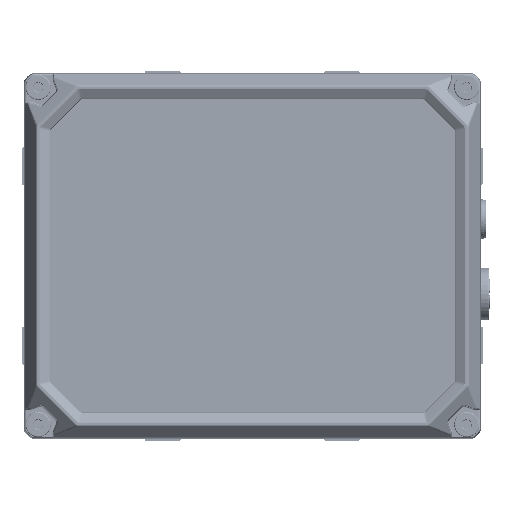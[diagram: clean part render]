
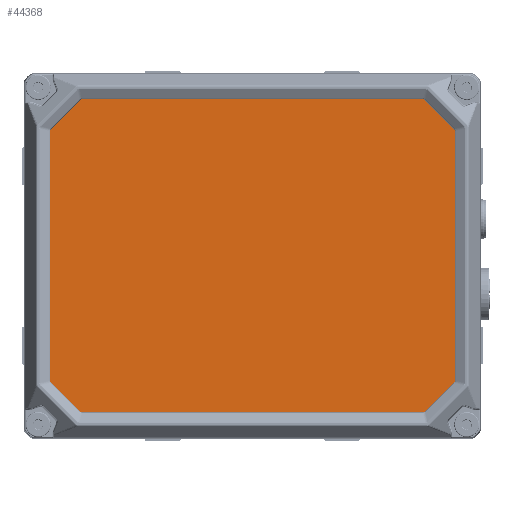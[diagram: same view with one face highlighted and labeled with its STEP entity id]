
A CAD part, top view. The second image highlights one B-rep face of the part: STEP entity #44368.
In plain terms, the highlighted planar face has unit normal (0, 0, 1).
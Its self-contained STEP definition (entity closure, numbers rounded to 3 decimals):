
#44368=ADVANCED_FACE('',(#53660),#47039,.F.);
#47039=PLANE('',#150054);
#53660=FACE_OUTER_BOUND('',#61275,.T.);
#61275=EDGE_LOOP('',(#95484,#95485,#95486,#95487,#95488,#95489,#95490,#95491,
#95492,#95493,#95494,#95495,#95496,#95497,#95498,#95499));
#64157=ELLIPSE('',#150046,1.001,1.);
#64158=ELLIPSE('',#150047,1.001,1.);
#64159=ELLIPSE('',#150048,1.001,1.);
#64160=ELLIPSE('',#150049,1.001,1.);
#64161=ELLIPSE('',#150050,1.001,1.);
#64162=ELLIPSE('',#150051,1.001,1.);
#64163=ELLIPSE('',#150052,1.001,1.);
#64164=ELLIPSE('',#150053,1.001,1.);
#95484=ORIENTED_EDGE('',*,*,#124792,.T.);
#95485=ORIENTED_EDGE('',*,*,#124793,.T.);
#95486=ORIENTED_EDGE('',*,*,#124794,.T.);
#95487=ORIENTED_EDGE('',*,*,#124795,.T.);
#95488=ORIENTED_EDGE('',*,*,#124796,.T.);
#95489=ORIENTED_EDGE('',*,*,#124797,.T.);
#95490=ORIENTED_EDGE('',*,*,#124798,.T.);
#95491=ORIENTED_EDGE('',*,*,#124799,.T.);
#95492=ORIENTED_EDGE('',*,*,#124800,.T.);
#95493=ORIENTED_EDGE('',*,*,#124801,.T.);
#95494=ORIENTED_EDGE('',*,*,#124802,.T.);
#95495=ORIENTED_EDGE('',*,*,#124803,.T.);
#95496=ORIENTED_EDGE('',*,*,#124804,.T.);
#95497=ORIENTED_EDGE('',*,*,#124805,.T.);
#95498=ORIENTED_EDGE('',*,*,#124806,.T.);
#95499=ORIENTED_EDGE('',*,*,#124807,.T.);
#108169=VERTEX_POINT('',#278731);
#108170=VERTEX_POINT('',#278732);
#108171=VERTEX_POINT('',#278734);
#108172=VERTEX_POINT('',#278736);
#108173=VERTEX_POINT('',#278738);
#108174=VERTEX_POINT('',#278740);
#108175=VERTEX_POINT('',#278742);
#108176=VERTEX_POINT('',#278744);
#108177=VERTEX_POINT('',#278746);
#108178=VERTEX_POINT('',#278748);
#108179=VERTEX_POINT('',#278750);
#108180=VERTEX_POINT('',#278752);
#108181=VERTEX_POINT('',#278754);
#108182=VERTEX_POINT('',#278756);
#108183=VERTEX_POINT('',#278758);
#108184=VERTEX_POINT('',#278760);
#124792=EDGE_CURVE('',#108169,#108170,#132539,.T.);
#124793=EDGE_CURVE('',#108170,#108171,#64157,.T.);
#124794=EDGE_CURVE('',#108171,#108172,#132540,.T.);
#124795=EDGE_CURVE('',#108172,#108173,#64158,.T.);
#124796=EDGE_CURVE('',#108173,#108174,#132541,.T.);
#124797=EDGE_CURVE('',#108174,#108175,#64159,.T.);
#124798=EDGE_CURVE('',#108175,#108176,#132542,.T.);
#124799=EDGE_CURVE('',#108176,#108177,#64160,.T.);
#124800=EDGE_CURVE('',#108177,#108178,#132543,.T.);
#124801=EDGE_CURVE('',#108178,#108179,#64161,.T.);
#124802=EDGE_CURVE('',#108179,#108180,#132544,.T.);
#124803=EDGE_CURVE('',#108180,#108181,#64162,.T.);
#124804=EDGE_CURVE('',#108181,#108182,#132545,.T.);
#124805=EDGE_CURVE('',#108182,#108183,#64163,.T.);
#124806=EDGE_CURVE('',#108183,#108184,#132546,.T.);
#124807=EDGE_CURVE('',#108184,#108169,#64164,.T.);
#132539=LINE('',#278730,#139231);
#132540=LINE('',#278735,#139232);
#132541=LINE('',#278739,#139233);
#132542=LINE('',#278743,#139234);
#132543=LINE('',#278747,#139235);
#132544=LINE('',#278751,#139236);
#132545=LINE('',#278755,#139237);
#132546=LINE('',#278759,#139238);
#139231=VECTOR('',#178168,1.);
#139232=VECTOR('',#178171,1.);
#139233=VECTOR('',#178174,1.);
#139234=VECTOR('',#178177,1.);
#139235=VECTOR('',#178180,1.);
#139236=VECTOR('',#178183,1.);
#139237=VECTOR('',#178186,1.);
#139238=VECTOR('',#178189,1.);
#150046=AXIS2_PLACEMENT_3D('',#278733,#178169,#178170);
#150047=AXIS2_PLACEMENT_3D('',#278737,#178172,#178173);
#150048=AXIS2_PLACEMENT_3D('',#278741,#178175,#178176);
#150049=AXIS2_PLACEMENT_3D('',#278745,#178178,#178179);
#150050=AXIS2_PLACEMENT_3D('',#278749,#178181,#178182);
#150051=AXIS2_PLACEMENT_3D('',#278753,#178184,#178185);
#150052=AXIS2_PLACEMENT_3D('',#278757,#178187,#178188);
#150053=AXIS2_PLACEMENT_3D('',#278761,#178190,#178191);
#150054=AXIS2_PLACEMENT_3D('',#278762,#178192,#178193);
#178168=DIRECTION('',(-0.707,0.707,0.));
#178169=DIRECTION('',(0.,0.,1.));
#178170=DIRECTION('',(0.383,0.924,0.));
#178171=DIRECTION('',(-1.,0.,0.));
#178172=DIRECTION('',(0.,0.,1.));
#178173=DIRECTION('',(-0.383,0.924,0.));
#178174=DIRECTION('',(-0.707,-0.707,0.));
#178175=DIRECTION('',(0.,0.,1.));
#178176=DIRECTION('',(-0.924,0.383,0.));
#178177=DIRECTION('',(0.,-1.,0.));
#178178=DIRECTION('',(0.,0.,1.));
#178179=DIRECTION('',(-0.924,-0.383,0.));
#178180=DIRECTION('',(0.707,-0.707,0.));
#178181=DIRECTION('',(0.,0.,1.));
#178182=DIRECTION('',(-0.383,-0.924,0.));
#178183=DIRECTION('',(1.,0.,0.));
#178184=DIRECTION('',(0.,0.,1.));
#178185=DIRECTION('',(0.383,-0.924,0.));
#178186=DIRECTION('',(0.707,0.707,0.));
#178187=DIRECTION('',(0.,0.,1.));
#178188=DIRECTION('',(0.924,-0.383,0.));
#178189=DIRECTION('',(0.,1.,0.));
#178190=DIRECTION('',(0.,0.,1.));
#178191=DIRECTION('',(0.924,0.383,0.));
#178192=DIRECTION('',(0.,0.,-1.));
#178193=DIRECTION('',(0.,-1.,0.));
#278730=CARTESIAN_POINT('',(46.96,42.8,115.5));
#278731=CARTESIAN_POINT('',(55.007,34.753,115.5));
#278732=CARTESIAN_POINT('',(47.253,42.507,115.5));
#278733=CARTESIAN_POINT('',(46.546,41.799,115.5));
#278734=CARTESIAN_POINT('',(46.546,42.8,115.5));
#278735=CARTESIAN_POINT('',(-46.96,42.8,115.5));
#278736=CARTESIAN_POINT('',(-46.546,42.8,115.5));
#278737=CARTESIAN_POINT('',(-46.546,41.799,115.5));
#278738=CARTESIAN_POINT('',(-47.253,42.507,115.5));
#278739=CARTESIAN_POINT('',(-55.3,34.46,115.5));
#278740=CARTESIAN_POINT('',(-55.007,34.753,115.5));
#278741=CARTESIAN_POINT('',(-54.299,34.046,115.5));
#278742=CARTESIAN_POINT('',(-55.3,34.046,115.5));
#278743=CARTESIAN_POINT('',(-55.3,-34.46,115.5));
#278744=CARTESIAN_POINT('',(-55.3,-34.046,115.5));
#278745=CARTESIAN_POINT('',(-54.299,-34.046,115.5));
#278746=CARTESIAN_POINT('',(-55.007,-34.753,115.5));
#278747=CARTESIAN_POINT('',(-46.96,-42.8,115.5));
#278748=CARTESIAN_POINT('',(-47.253,-42.507,115.5));
#278749=CARTESIAN_POINT('',(-46.546,-41.799,115.5));
#278750=CARTESIAN_POINT('',(-46.546,-42.8,115.5));
#278751=CARTESIAN_POINT('',(46.96,-42.8,115.5));
#278752=CARTESIAN_POINT('',(46.546,-42.8,115.5));
#278753=CARTESIAN_POINT('',(46.546,-41.799,115.5));
#278754=CARTESIAN_POINT('',(47.253,-42.507,115.5));
#278755=CARTESIAN_POINT('',(55.3,-34.46,115.5));
#278756=CARTESIAN_POINT('',(55.007,-34.753,115.5));
#278757=CARTESIAN_POINT('',(54.299,-34.046,115.5));
#278758=CARTESIAN_POINT('',(55.3,-34.046,115.5));
#278759=CARTESIAN_POINT('',(55.3,34.46,115.5));
#278760=CARTESIAN_POINT('',(55.3,34.046,115.5));
#278761=CARTESIAN_POINT('',(54.299,34.046,115.5));
#278762=CARTESIAN_POINT('',(-46.747,-42.285,115.5));
